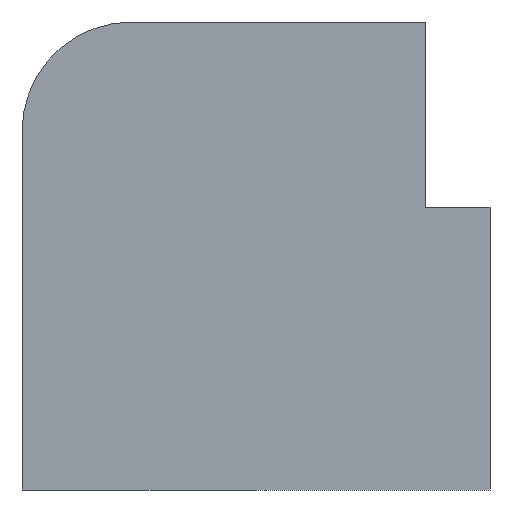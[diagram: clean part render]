
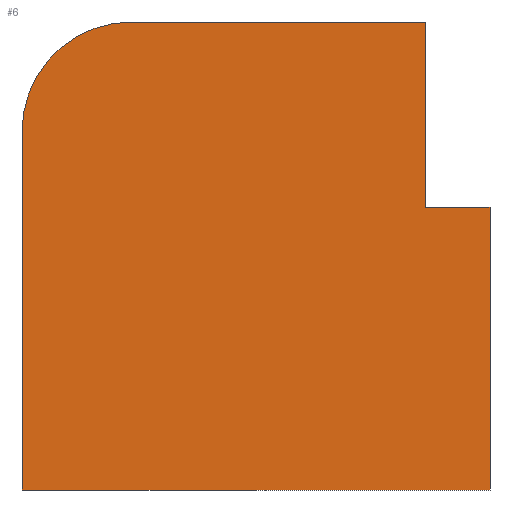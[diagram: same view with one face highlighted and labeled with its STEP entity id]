
A CAD part, left-side view. The second image highlights one B-rep face of the part: STEP entity #6.
In plain terms, the highlighted planar face has unit normal (-1, 0, 0).
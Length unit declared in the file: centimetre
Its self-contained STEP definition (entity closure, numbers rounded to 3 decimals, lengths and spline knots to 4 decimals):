
#6 = ADVANCED_FACE ( 'NONE', ( #385 ), #485, .F. ) ;
#8 = EDGE_CURVE ( 'NONE', #73, #346, #194, .T. ) ;
#14 = ORIENTED_EDGE ( 'NONE', *, *, #116, .T. ) ;
#39 = EDGE_LOOP ( 'NONE', ( #573, #409, #134, #547, #130, #14, #579 ) ) ;
#69 = DIRECTION ( 'NONE',  ( 0., 0., -1. ) ) ;
#73 = VERTEX_POINT ( 'NONE', #351 ) ;
#75 = CARTESIAN_POINT ( 'NONE',  ( 0., 1000., 0. ) ) ;
#86 = VECTOR ( 'NONE', #567, 100. ) ;
#108 = DIRECTION ( 'NONE',  ( 0., 0., -1. ) ) ;
#116 = EDGE_CURVE ( 'NONE', #211, #532, #123, .T. ) ;
#123 = LINE ( 'NONE', #213, #316 ) ;
#129 = CARTESIAN_POINT ( 'NONE',  ( 0., 766.201, 1000. ) ) ;
#130 = ORIENTED_EDGE ( 'NONE', *, *, #537, .T. ) ;
#134 = ORIENTED_EDGE ( 'NONE', *, *, #8, .F. ) ;
#150 = CARTESIAN_POINT ( 'NONE',  ( 0., 0., 0. ) ) ;
#164 = DIRECTION ( 'NONE',  ( -1., 0., 0. ) ) ;
#180 = AXIS2_PLACEMENT_3D ( 'NONE', #203, #164, #108 ) ;
#190 = EDGE_CURVE ( 'NONE', #346, #360, #286, .T. ) ;
#194 = LINE ( 'NONE', #378, #86 ) ;
#195 = LINE ( 'NONE', #575, #511 ) ;
#203 = CARTESIAN_POINT ( 'NONE',  ( 0., 766.201, 766.201 ) ) ;
#211 = VERTEX_POINT ( 'NONE', #480 ) ;
#212 = DIRECTION ( 'NONE',  ( 0., -1., 0. ) ) ;
#213 = CARTESIAN_POINT ( 'NONE',  ( 0., 1000., 1000. ) ) ;
#226 = CARTESIAN_POINT ( 'NONE',  ( 0., 137.0815, 604.2125 ) ) ;
#236 = VECTOR ( 'NONE', #335, 100. ) ;
#267 = VERTEX_POINT ( 'NONE', #129 ) ;
#281 = AXIS2_PLACEMENT_3D ( 'NONE', #437, #295, #69 ) ;
#286 = LINE ( 'NONE', #563, #236 ) ;
#291 = VECTOR ( 'NONE', #389, 100. ) ;
#295 = DIRECTION ( 'NONE',  ( 1., 0., 0. ) ) ;
#305 = CIRCLE ( 'NONE', #180, 233.799 ) ;
#316 = VECTOR ( 'NONE', #398, 100. ) ;
#322 = VECTOR ( 'NONE', #589, 100. ) ;
#335 = DIRECTION ( 'NONE',  ( 0., -1., 0. ) ) ;
#346 = VERTEX_POINT ( 'NONE', #226 ) ;
#351 = CARTESIAN_POINT ( 'NONE',  ( 0., 137.0815, 1000. ) ) ;
#360 = VERTEX_POINT ( 'NONE', #542 ) ;
#378 = CARTESIAN_POINT ( 'NONE',  ( 0., 137.0815, 604.2125 ) ) ;
#384 = CARTESIAN_POINT ( 'NONE',  ( 0., 1000., 0. ) ) ;
#385 = FACE_OUTER_BOUND ( 'NONE', #39, .T. ) ;
#389 = DIRECTION ( 'NONE',  ( 0., -1., 0. ) ) ;
#391 = EDGE_CURVE ( 'NONE', #360, #473, #403, .T. ) ;
#398 = DIRECTION ( 'NONE',  ( 0., 0., -1. ) ) ;
#403 = LINE ( 'NONE', #586, #322 ) ;
#409 = ORIENTED_EDGE ( 'NONE', *, *, #190, .F. ) ;
#437 = CARTESIAN_POINT ( 'NONE',  ( 0., 1000., 1000. ) ) ;
#446 = EDGE_CURVE ( 'NONE', #267, #73, #195, .T. ) ;
#473 = VERTEX_POINT ( 'NONE', #150 ) ;
#480 = CARTESIAN_POINT ( 'NONE',  ( 0., 1000., 766.201 ) ) ;
#484 = LINE ( 'NONE', #384, #291 ) ;
#485 = PLANE ( 'NONE',  #281 ) ;
#508 = EDGE_CURVE ( 'NONE', #532, #473, #484, .T. ) ;
#511 = VECTOR ( 'NONE', #212, 100. ) ;
#532 = VERTEX_POINT ( 'NONE', #75 ) ;
#537 = EDGE_CURVE ( 'NONE', #267, #211, #305, .T. ) ;
#542 = CARTESIAN_POINT ( 'NONE',  ( 0., 0., 604.2125 ) ) ;
#547 = ORIENTED_EDGE ( 'NONE', *, *, #446, .F. ) ;
#563 = CARTESIAN_POINT ( 'NONE',  ( 0., 0., 604.2125 ) ) ;
#567 = DIRECTION ( 'NONE',  ( 0., 0., -1. ) ) ;
#573 = ORIENTED_EDGE ( 'NONE', *, *, #391, .F. ) ;
#575 = CARTESIAN_POINT ( 'NONE',  ( 0., 1000., 1000. ) ) ;
#579 = ORIENTED_EDGE ( 'NONE', *, *, #508, .T. ) ;
#586 = CARTESIAN_POINT ( 'NONE',  ( 0., 0., 1000. ) ) ;
#589 = DIRECTION ( 'NONE',  ( 0., 0., -1. ) ) ;
